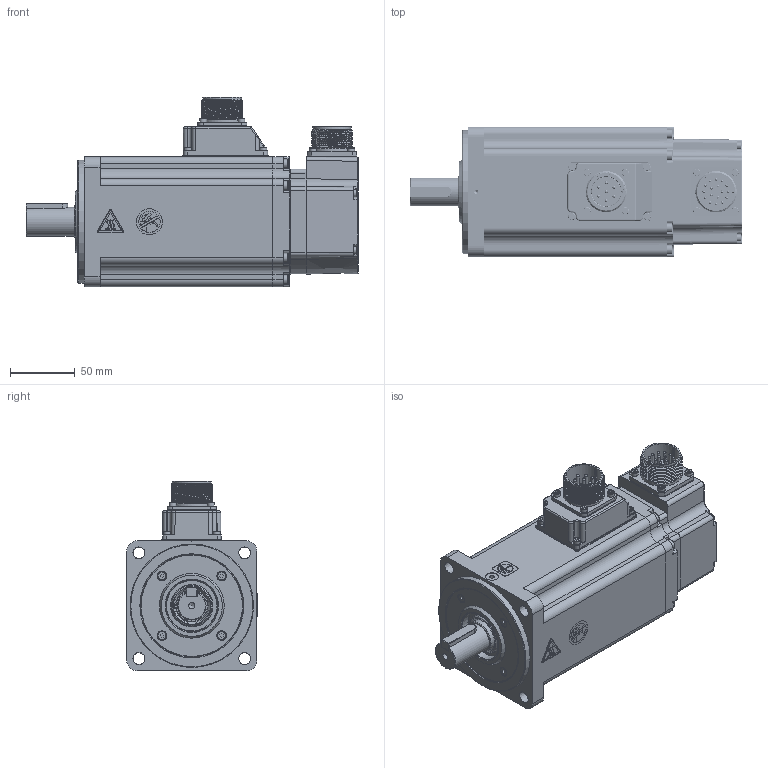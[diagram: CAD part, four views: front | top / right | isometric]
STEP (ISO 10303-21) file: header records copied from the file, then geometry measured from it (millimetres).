
FILE_DESCRIPTION(/* description */ ('AdapterTestApp'),/* implementation_level */ '2;1');
FILE_NAME(/* name */ 'TCE100 4B XX 3 A1 0 C3',/* time_stamp */ '2015-09-02T15:16:35+02:00',/* author */ ('AdapterTestApp'),/* organization */ ('Siemens PLM Software'),/* preprocessor_version */ 'ST-DEVELOPER v15.6',/* originating_system */ 'DEX',/* authorisation */ $);
FILE_SCHEMA (('AUTOMOTIVE_DESIGN {1 0 10303 214 3 1 1}'));
Products named in the file (29): TCE100 4B XX 3 A1 0 C3_vuoto; 005911000203; 003155002049; 005123000420; 003003199427; 003103001501; 001107000620; 005911000206; 005204000002; U5140004 vuoto; 003120002503; 003303000370; 005911000150; 003108002568_90Â°; 005911000201; 003799000580; 003303000373; 005117001750; 005007000130; 005123000500; 003155002050; connettore MS4102E-20-29P-624; 005911000493; 005119000312; 005113000596; 005204000003; 005911000183; 003251022001; 005204000001
Assembly tree (56 placements, depth 3):
  TCE100 4B XX 3 A1 0 C3_vuoto
    005911000203  x4
    003155002049
    005123000420
    003003199427
    003103001501
    001107000620
    005911000206  x8
    005204000002
    U5140004 vuoto
      003120002503
      003303000370
      005911000150
      003108002568_90Â°
      005911000201  x8
      003799000580
      003303000373
      005117001750
    005007000130
    005123000500
    003155002050
    connettore MS4102E-20-29P-624
    005911000201  x4
    003303000373
    005911000493  x4
    005119000312
    005113000596
    005204000003
    005911000183  x4
    003251022001
    005204000001
Bounding box: 255.5 x 100.3 x 145.8 mm (x, y, z)
Volume: 750153 mm3; surface area: 329050 mm2
Topology: 72 solids, 82 shells, 3000 faces, 7411 edges, 4773 vertices
Faces by surface type: plane 1537, cylinder 712, extrusion 233, cone 168, torus 145, bspline 103, sphere 102
Full cylindrical faces by diameter (mm): 2 x35, 2.224 x1, 2.4 x8, 2.459 x23, 2.5 x1, 2.6 x1, 2.8 x7, 3 x34, 3.048 x4, 3.2 x5, 3.242 x36, 3.5 x17, 3.6 x1, 3.7 x8, 3.8 x2, 4 x29, 4.5 x16, 4.7 x11, 4.917 x1, 5.1 x1, 5.5 x31, 5.8 x6, 7 x16, 7.5 x4, 8 x4, 10 x1, 11 x1, 12 x2, 16.98 x1, 17 x2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
Entity records: 91286 total; most frequent: CARTESIAN_POINT 32628, ORIENTED_EDGE 11434, DIRECTION 11337, EDGE_CURVE 5717, VERTEX_POINT 4006, AXIS2_PLACEMENT_3D 3931, FACE_BOUND 3501, VECTOR 3475
